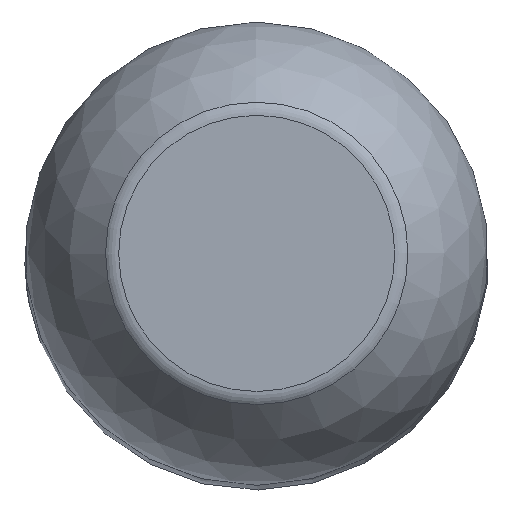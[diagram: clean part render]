
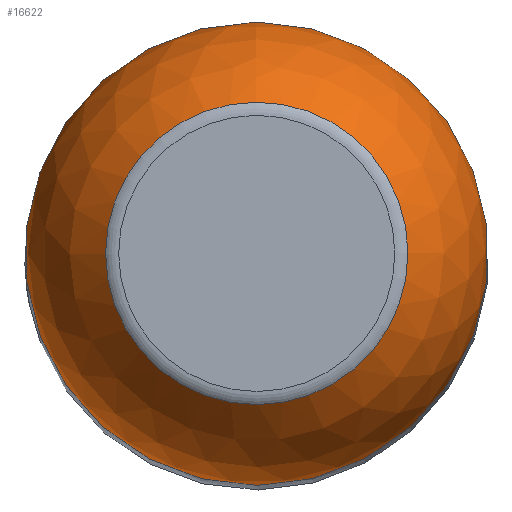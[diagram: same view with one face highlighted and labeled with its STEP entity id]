
A CAD part, top view. The second image highlights one B-rep face of the part: STEP entity #16622.
In plain terms, the highlighted spherical face has radius 18.326 mm.
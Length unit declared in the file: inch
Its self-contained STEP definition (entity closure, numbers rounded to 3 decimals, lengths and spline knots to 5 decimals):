
#2772=SPHERICAL_SURFACE('',#17670,0.7215);
#3701=CIRCLE('',#17669,0.40377);
#3702=CIRCLE('',#17671,0.47012);
#3867=FACE_BOUND('',#5878,.T.);
#4803=FACE_OUTER_BOUND('',#5877,.T.);
#5877=EDGE_LOOP('',(#15568));
#5878=EDGE_LOOP('',(#15569));
#8316=VERTEX_POINT('',#39867);
#8317=VERTEX_POINT('',#39870);
#10738=EDGE_CURVE('',#8316,#8316,#3701,.T.);
#10739=EDGE_CURVE('',#8317,#8317,#3702,.T.);
#15568=ORIENTED_EDGE('',*,*,#10738,.T.);
#15569=ORIENTED_EDGE('',*,*,#10739,.F.);
#16622=ADVANCED_FACE('',(#4803,#3867),#2772,.T.);
#17669=AXIS2_PLACEMENT_3D('',#39868,#20807,#20808);
#17670=AXIS2_PLACEMENT_3D('',#39869,#20809,#20810);
#17671=AXIS2_PLACEMENT_3D('',#39871,#20811,#20812);
#20807=DIRECTION('center_axis',(0.,0.,1.));
#20808=DIRECTION('ref_axis',(1.,0.,0.));
#20809=DIRECTION('center_axis',(0.,0.,1.));
#20810=DIRECTION('ref_axis',(1.,0.,0.));
#20811=DIRECTION('center_axis',(0.,0.,1.));
#20812=DIRECTION('ref_axis',(1.,0.,0.));
#39867=CARTESIAN_POINT('',(0.40377,0.,0.96756));
#39868=CARTESIAN_POINT('Origin',(0.,0.,0.96756));
#39869=CARTESIAN_POINT('Origin',(0.,0.,1.5655));
#39870=CARTESIAN_POINT('',(0.47012,0.,2.11281));
#39871=CARTESIAN_POINT('Origin',(0.,0.,2.11281));
